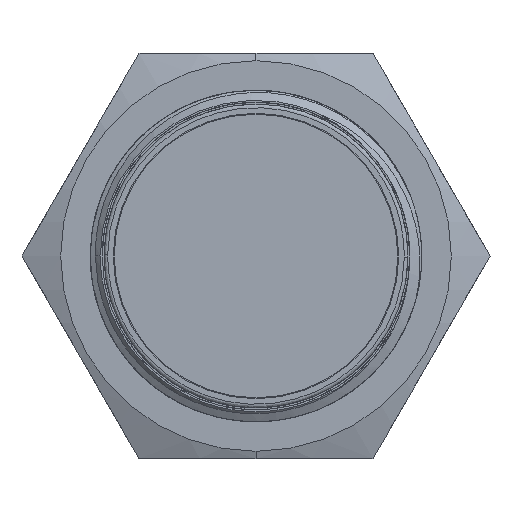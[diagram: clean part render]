
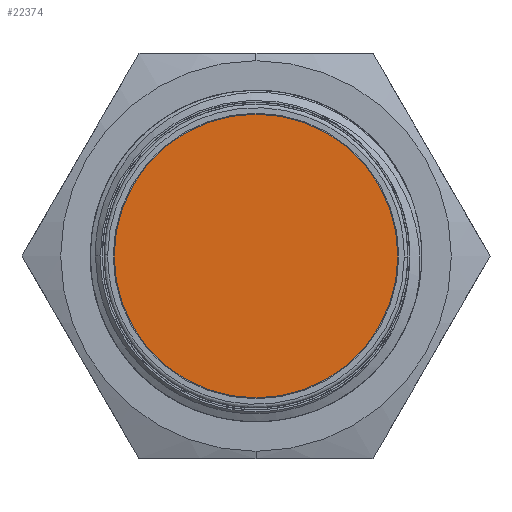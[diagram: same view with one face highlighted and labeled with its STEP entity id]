
A CAD part, front view. The second image highlights one B-rep face of the part: STEP entity #22374.
In plain terms, the highlighted planar face has unit normal (0, -1, 0).
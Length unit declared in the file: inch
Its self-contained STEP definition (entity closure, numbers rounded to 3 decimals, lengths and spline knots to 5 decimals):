
#434 = AXIS2_PLACEMENT_3D ( 'NONE', #18674, #1222, #1469 ) ;
#1222 = DIRECTION ( 'NONE',  ( 0., -1., 0. ) ) ;
#1469 = DIRECTION ( 'NONE',  ( 0., 0., -1. ) ) ;
#2869 = DIRECTION ( 'NONE',  ( 0., 0., -1. ) ) ;
#3051 = AXIS2_PLACEMENT_3D ( 'NONE', #29942, #12362, #32884 ) ;
#4264 = FACE_OUTER_BOUND ( 'NONE', #18760, .T. ) ;
#9023 = AXIS2_PLACEMENT_3D ( 'NONE', #37641, #20315, #2869 ) ;
#10912 = ORIENTED_EDGE ( 'NONE', *, *, #25072, .T. ) ;
#11539 = CIRCLE ( 'NONE', #3051, 0.30315 ) ;
#12362 = DIRECTION ( 'NONE',  ( 0., -1., 0. ) ) ;
#18674 = CARTESIAN_POINT ( 'NONE',  ( 0., -0.13583, -0.2126 ) ) ;
#18760 = EDGE_LOOP ( 'NONE', ( #26362, #10912 ) ) ;
#19853 = CARTESIAN_POINT ( 'NONE',  ( 0., -0.13583, 0.30315 ) ) ;
#20315 = DIRECTION ( 'NONE',  ( 0., -1., 0. ) ) ;
#22374 = ADVANCED_FACE ( 'NONE', ( #4264 ), #30360, .T. ) ;
#22626 = VERTEX_POINT ( 'NONE', #19853 ) ;
#23336 = CIRCLE ( 'NONE', #9023, 0.30315 ) ;
#25072 = EDGE_CURVE ( 'NONE', #22626, #25674, #11539, .T. ) ;
#25674 = VERTEX_POINT ( 'NONE', #28044 ) ;
#26362 = ORIENTED_EDGE ( 'NONE', *, *, #34400, .T. ) ;
#28044 = CARTESIAN_POINT ( 'NONE',  ( 0., -0.13583, -0.30315 ) ) ;
#29942 = CARTESIAN_POINT ( 'NONE',  ( 0., -0.13583, 0. ) ) ;
#30360 = PLANE ( 'NONE',  #434 ) ;
#32884 = DIRECTION ( 'NONE',  ( 0., 0., -1. ) ) ;
#34400 = EDGE_CURVE ( 'NONE', #25674, #22626, #23336, .T. ) ;
#37641 = CARTESIAN_POINT ( 'NONE',  ( 0., -0.13583, 0. ) ) ;
